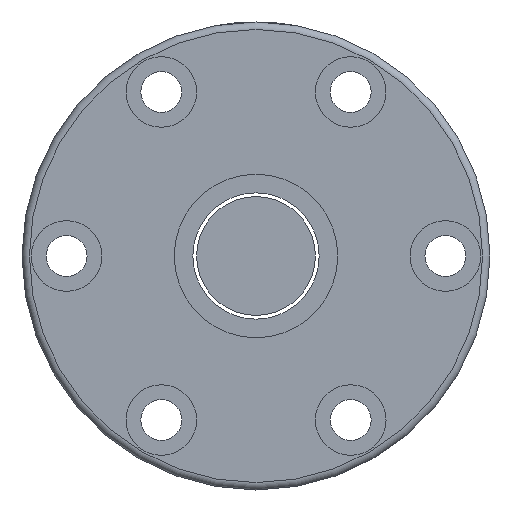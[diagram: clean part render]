
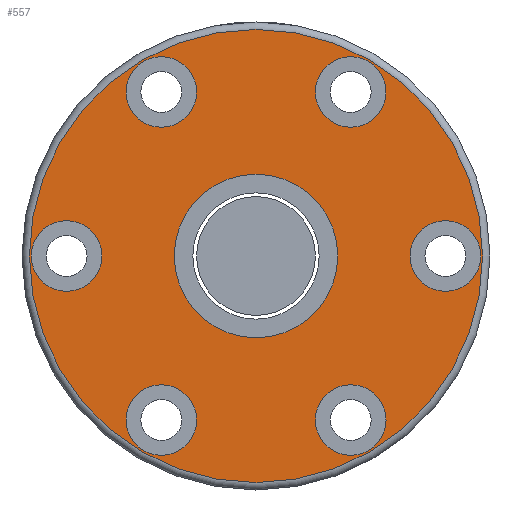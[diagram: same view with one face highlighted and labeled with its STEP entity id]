
A CAD part, left-side view. The second image highlights one B-rep face of the part: STEP entity #557.
In plain terms, the highlighted planar face has unit normal (-1, 0, 0).
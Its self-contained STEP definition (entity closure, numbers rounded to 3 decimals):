
#136=ORIENTED_EDGE('',*,*,#228,.F.);
#137=ORIENTED_EDGE('',*,*,#227,.T.);
#138=ORIENTED_EDGE('',*,*,#212,.T.);
#139=ORIENTED_EDGE('',*,*,#208,.T.);
#140=ORIENTED_EDGE('',*,*,#204,.T.);
#141=ORIENTED_EDGE('',*,*,#196,.T.);
#142=ORIENTED_EDGE('',*,*,#200,.T.);
#143=ORIENTED_EDGE('',*,*,#216,.T.);
#196=EDGE_CURVE('',#250,#250,#299,.T.);
#200=EDGE_CURVE('',#254,#254,#303,.T.);
#204=EDGE_CURVE('',#258,#258,#307,.T.);
#208=EDGE_CURVE('',#262,#262,#311,.T.);
#212=EDGE_CURVE('',#266,#266,#315,.T.);
#216=EDGE_CURVE('',#270,#270,#319,.T.);
#227=EDGE_CURVE('',#281,#281,#326,.T.);
#228=EDGE_CURVE('',#282,#282,#327,.T.);
#250=VERTEX_POINT('',#869);
#254=VERTEX_POINT('',#880);
#258=VERTEX_POINT('',#891);
#262=VERTEX_POINT('',#902);
#266=VERTEX_POINT('',#913);
#270=VERTEX_POINT('',#924);
#281=VERTEX_POINT('',#969);
#282=VERTEX_POINT('',#972);
#299=CIRCLE('',#607,4.75);
#303=CIRCLE('',#614,4.75);
#307=CIRCLE('',#621,4.75);
#311=CIRCLE('',#628,4.75);
#315=CIRCLE('',#635,4.75);
#319=CIRCLE('',#642,4.75);
#326=CIRCLE('',#654,30.5);
#327=CIRCLE('',#656,11.);
#387=EDGE_LOOP('',(#136));
#388=EDGE_LOOP('',(#137));
#389=EDGE_LOOP('',(#138));
#390=EDGE_LOOP('',(#139));
#391=EDGE_LOOP('',(#140));
#392=EDGE_LOOP('',(#141));
#393=EDGE_LOOP('',(#142));
#394=EDGE_LOOP('',(#143));
#476=FACE_BOUND('',#387,.T.);
#477=FACE_BOUND('',#388,.T.);
#478=FACE_BOUND('',#389,.T.);
#479=FACE_BOUND('',#390,.T.);
#480=FACE_BOUND('',#391,.T.);
#481=FACE_BOUND('',#392,.T.);
#482=FACE_BOUND('',#393,.T.);
#483=FACE_BOUND('',#394,.T.);
#526=PLANE('',#655);
#557=ADVANCED_FACE('',(#476,#477,#478,#479,#480,#481,#482,#483),#526,.T.);
#607=AXIS2_PLACEMENT_3D('',#868,#701,#702);
#614=AXIS2_PLACEMENT_3D('',#879,#715,#716);
#621=AXIS2_PLACEMENT_3D('',#890,#729,#730);
#628=AXIS2_PLACEMENT_3D('',#901,#743,#744);
#635=AXIS2_PLACEMENT_3D('',#912,#757,#758);
#642=AXIS2_PLACEMENT_3D('',#923,#771,#772);
#654=AXIS2_PLACEMENT_3D('',#968,#795,#796);
#655=AXIS2_PLACEMENT_3D('',#970,#797,#798);
#656=AXIS2_PLACEMENT_3D('',#971,#799,#800);
#701=DIRECTION('',(1.,0.,0.));
#702=DIRECTION('',(0.,0.5,-0.866));
#715=DIRECTION('',(1.,0.,0.));
#716=DIRECTION('',(0.,-0.5,-0.866));
#729=DIRECTION('',(1.,0.,0.));
#730=DIRECTION('',(0.,-1.,0.));
#743=DIRECTION('',(1.,0.,0.));
#744=DIRECTION('',(0.,-0.5,0.866));
#757=DIRECTION('',(1.,0.,0.));
#758=DIRECTION('',(0.,0.5,0.866));
#771=DIRECTION('',(1.,0.,0.));
#772=DIRECTION('',(0.,1.,0.));
#795=DIRECTION('',(-1.,0.,0.));
#796=DIRECTION('',(0.,-1.,0.));
#797=DIRECTION('',(-1.,0.,0.));
#798=DIRECTION('',(0.,1.,0.));
#799=DIRECTION('',(-1.,0.,0.));
#800=DIRECTION('',(0.,-1.,0.));
#868=CARTESIAN_POINT('',(-58.,-25.497,0.002));
#869=CARTESIAN_POINT('',(-58.,-23.122,-4.112));
#879=CARTESIAN_POINT('',(-58.,-12.747,22.082));
#880=CARTESIAN_POINT('',(-58.,-15.122,17.968));
#890=CARTESIAN_POINT('',(-58.,12.75,22.08));
#891=CARTESIAN_POINT('',(-58.,8.,22.08));
#901=CARTESIAN_POINT('',(-58.,25.497,-0.002));
#902=CARTESIAN_POINT('',(-58.,23.122,4.112));
#912=CARTESIAN_POINT('',(-58.,12.747,-22.082));
#913=CARTESIAN_POINT('',(-58.,15.122,-17.968));
#923=CARTESIAN_POINT('',(-58.,-12.75,-22.08));
#924=CARTESIAN_POINT('',(-58.,-8.,-22.08));
#968=CARTESIAN_POINT('',(-58.,0.,0.));
#969=CARTESIAN_POINT('',(-58.,-30.5,0.));
#970=CARTESIAN_POINT('',(-58.,11.,0.));
#971=CARTESIAN_POINT('',(-58.,0.,0.));
#972=CARTESIAN_POINT('',(-58.,-11.,0.));
